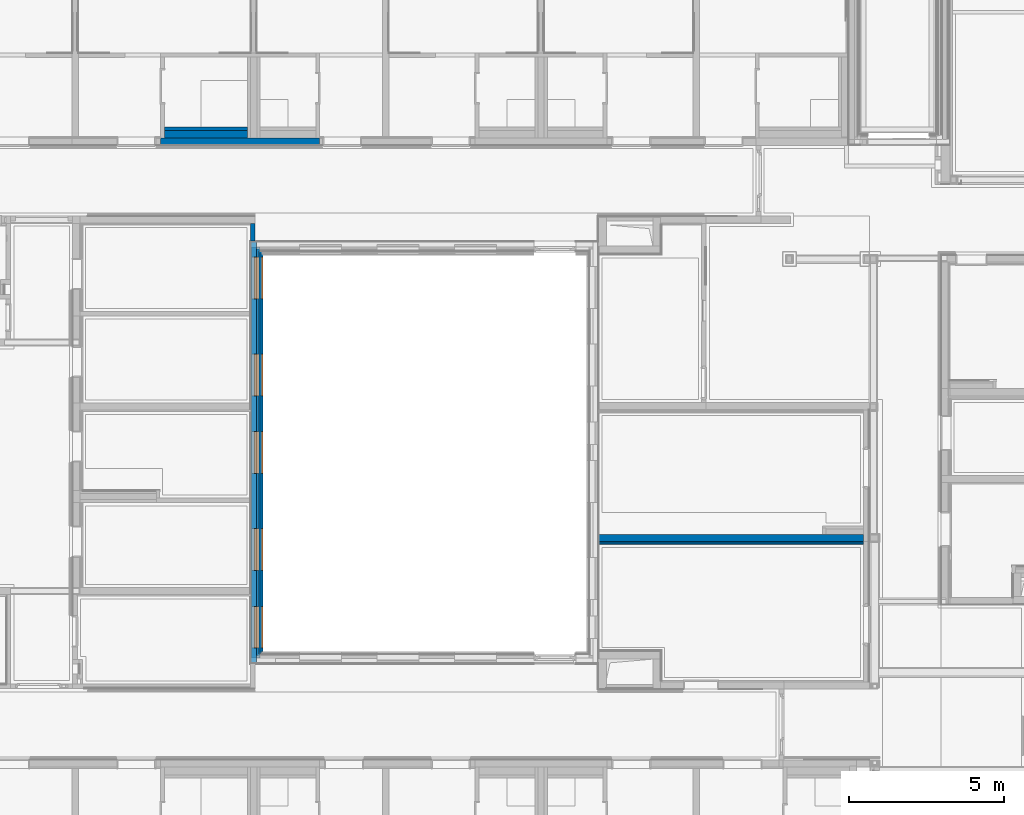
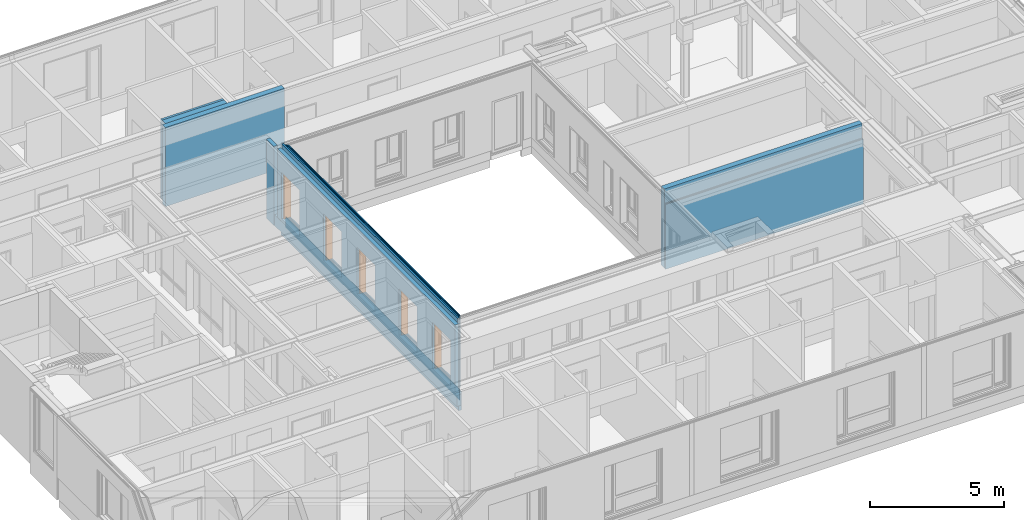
# One storey, part 17 of 207: 16 walls, 5 proxies, 30 openings.
"""IFC4 building model written with IfcOpenShell, lengths in metres."""

from ifc_helpers import new_model, entity, si_unit, converted_unit, derived_unit, frame, frame_2d, origin, origin_with_axes, place, context, subcontext, project, spatial, polyline, rectangle, outline, extrude, faceted_brep, material, element, fill, save


model = new_model("IFC4")

# Units and contexts
model_context = context("Model", 3, precision=1e-05, world=origin())
body_context = subcontext(model_context, "Body", "Model", "MODEL_VIEW")
ifc_project = project(units=[si_unit("LENGTHUNIT", "METRE"), si_unit("AREAUNIT", "SQUARE_METRE"), si_unit("VOLUMEUNIT", "CUBIC_METRE"), si_unit("MASSUNIT", "GRAM", prefix="KILO"), converted_unit("PLANEANGLEUNIT", "DEGREE", entity("IfcPlaneAngleMeasure", 0.0174532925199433), si_unit("PLANEANGLEUNIT", "RADIAN"), dimensions=[0, 0, 0, 0, 0, 0, 0]), derived_unit("THERMALTRANSMITTANCEUNIT", [(si_unit("POWERUNIT", "WATT"), 1), (si_unit("THERMODYNAMICTEMPERATUREUNIT", "KELVIN"), -1), (si_unit("LENGTHUNIT", "METRE"), -2)]), derived_unit("VOLUMETRICFLOWRATEUNIT", [(si_unit("LENGTHUNIT", "METRE"), 3), (converted_unit("TIMEUNIT", "hour", entity("IfcTimeMeasure", 3600.0), si_unit("TIMEUNIT", "SECOND"), dimensions=[0, 0, 1, 0, 0, 0, 0]), -1), (si_unit("LENGTHUNIT", "METRE"), -1)])], contexts=[model_context])

# Site, building, storey
site_placement = place(None, origin())
site = spatial("IfcSite", under=ifc_project, at=site_placement, Name="Psychiatrie Neubau Wunstorf", CompositionType="ELEMENT")
building_placement = place(site_placement, origin())
building = spatial("IfcBuilding", under=site, at=building_placement, Name="Neubau H2 Stationsgebäude", CompositionType="ELEMENT")
storey_placement = place(building_placement, frame((0.0, 0.0, -0.2)))
storey = spatial("IfcBuildingStorey", under=building, at=storey_placement, Name="H2 Ebene 0", CompositionType="ELEMENT", Elevation=-0.2)

# Wall, openings
ifc_material_1 = material(Name="WA-HD")
wall_1_placement = place(storey_placement, frame((15.675, 20.84, 0.5), z_axis=(0.0, 0.0, 1.0), x_axis=(-1.3748975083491e-16, -1.0, 0.0)))
wall_1 = element("IfcWall", 1, at=wall_1_placement, inside=storey, material=ifc_material_1, context=body_context, shape_type="SweptSolid", body=[
    extrude(rectangle(XDim=13.23, YDim=0.16, at=frame_2d((6.615, 0.08), x_axis=(1.0, 0.0))), origin_with_axes(), (0.0, 0.0, 1.0), 3.1),
])
opening_1_placement = place(wall_1_placement, frame((12.915, 0.16, 0.1), z_axis=(0.0, -1.0, 0.0), x_axis=(0.0, 0.0, 1.0)))
element("IfcOpeningElement", 2, at=opening_1_placement, cuts=wall_1, Name="Fensteröffnung", ObjectType="Opening", context=body_context, shape_type="SweptSolid", body=[
    extrude(outline(polyline([(2.12, 1.35), (2.12, 0.0), (0.0, 0.0), (0.0, 1.35), (2.12, 1.35)])), origin_with_axes(), (0.0, 0.0, 1.0), 0.16),
])
opening_2_placement = place(wall_1_placement, frame((10.415, 0.16, 0.1), z_axis=(0.0, -1.0, 0.0), x_axis=(0.0, 0.0, 1.0)))
element("IfcOpeningElement", 3, at=opening_2_placement, cuts=wall_1, Name="Fensteröffnung", ObjectType="Opening", context=body_context, shape_type="SweptSolid", body=[
    extrude(outline(polyline([(2.12, 1.35), (2.12, 0.0), (0.0, 0.0), (0.0, 1.35), (2.12, 1.35)])), origin_with_axes(), (0.0, 0.0, 1.0), 0.16),
])
opening_3_placement = place(wall_1_placement, frame((1.66500000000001, 0.16, 0.1), z_axis=(0.0, -1.0, 0.0), x_axis=(0.0, 0.0, 1.0)))
element("IfcOpeningElement", 4, at=opening_3_placement, cuts=wall_1, Name="Fensteröffnung", ObjectType="Opening", context=body_context, shape_type="SweptSolid", body=[
    extrude(outline(polyline([(2.12, 1.35), (2.12, 0.0), (0.0, 0.0), (0.0, 1.35), (2.12, 1.35)])), origin_with_axes(), (0.0, 0.0, 1.0), 0.16),
])
opening_4_placement = place(wall_1_placement, frame((4.79, 0.160000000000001, 0.1), z_axis=(0.0, -1.0, 0.0), x_axis=(0.0, 0.0, 1.0)))
element("IfcOpeningElement", 5, at=opening_4_placement, cuts=wall_1, Name="Fensteröffnung", ObjectType="Opening", context=body_context, shape_type="SweptSolid", body=[
    extrude(outline(polyline([(2.12, 1.35), (2.12, 0.0), (0.0, 0.0), (0.0, 1.35), (2.12, 1.35)])), origin_with_axes(), (0.0, 0.0, 1.0), 0.16),
])
opening_5_placement = place(wall_1_placement, frame((7.29, 0.159999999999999, 0.1), z_axis=(0.0, -1.0, 0.0), x_axis=(0.0, 0.0, 1.0)))
element("IfcOpeningElement", 6, at=opening_5_placement, cuts=wall_1, Name="Fensteröffnung", ObjectType="Opening", context=body_context, shape_type="SweptSolid", body=[
    extrude(outline(polyline([(2.12, 1.35), (2.12, 0.0), (0.0, 0.0), (0.0, 1.35), (2.12, 1.35)])), origin_with_axes(), (0.0, 0.0, 1.0), 0.16),
])

ifc_material_2 = material(Name="WA-DL")
wall_2_placement = place(storey_placement, frame((15.835, 20.78, 0.5), z_axis=(0.0, 0.0, 1.0), x_axis=(-1.38960229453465e-16, -1.0, 0.0)))
wall_2 = element("IfcWall", 7, at=wall_2_placement, inside=storey, material=ifc_material_2, context=body_context, shape_type="SweptSolid", body=[
    extrude(rectangle(XDim=13.09, YDim=0.08, at=frame_2d((6.545, 0.04), x_axis=(1.0, 0.0))), origin_with_axes(), (0.0, 0.0, 1.0), 3.3),
])
opening_6_placement = place(wall_2_placement, frame((12.855, 0.08, 0.1), z_axis=(0.0, -1.0, 0.0), x_axis=(0.0, 0.0, 1.0)))
element("IfcOpeningElement", 8, at=opening_6_placement, cuts=wall_2, Name="Fensteröffnung", ObjectType="Opening", context=body_context, shape_type="SweptSolid", body=[
    extrude(outline(polyline([(2.12, 1.35), (2.12, 0.0), (0.0, 0.0), (0.0, 1.35), (2.12, 1.35)])), origin_with_axes(), (0.0, 0.0, 1.0), 0.08),
])
opening_7_placement = place(wall_2_placement, frame((10.355, 0.0799999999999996, 0.1), z_axis=(0.0, -1.0, 0.0), x_axis=(0.0, 0.0, 1.0)))
element("IfcOpeningElement", 9, at=opening_7_placement, cuts=wall_2, Name="Fensteröffnung", ObjectType="Opening", context=body_context, shape_type="SweptSolid", body=[
    extrude(outline(polyline([(2.12, 1.35), (2.12, 0.0), (0.0, 0.0), (0.0, 1.35), (2.12, 1.35)])), origin_with_axes(), (0.0, 0.0, 1.0), 0.08),
])
opening_8_placement = place(wall_2_placement, frame((1.60500000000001, 0.0800000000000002, 0.1), z_axis=(0.0, -1.0, 0.0), x_axis=(0.0, 0.0, 1.0)))
element("IfcOpeningElement", 10, at=opening_8_placement, cuts=wall_2, Name="Fensteröffnung", ObjectType="Opening", context=body_context, shape_type="SweptSolid", body=[
    extrude(outline(polyline([(2.12, 1.35), (2.12, 0.0), (0.0, 0.0), (0.0, 1.35), (2.12, 1.35)])), origin_with_axes(), (0.0, 0.0, 1.0), 0.08),
])
opening_9_placement = place(wall_2_placement, frame((4.73, 0.0800000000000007, 0.1), z_axis=(0.0, -1.0, 0.0), x_axis=(0.0, 0.0, 1.0)))
element("IfcOpeningElement", 11, at=opening_9_placement, cuts=wall_2, Name="Fensteröffnung", ObjectType="Opening", context=body_context, shape_type="SweptSolid", body=[
    extrude(outline(polyline([(2.12, 1.35), (2.12, 0.0), (0.0, 0.0), (0.0, 1.35), (2.12, 1.35)])), origin_with_axes(), (0.0, 0.0, 1.0), 0.08),
])
opening_10_placement = place(wall_2_placement, frame((7.23, 0.0799999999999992, 0.1), z_axis=(0.0, -1.0, 0.0), x_axis=(0.0, 0.0, 1.0)))
element("IfcOpeningElement", 12, at=opening_10_placement, cuts=wall_2, Name="Fensteröffnung", ObjectType="Opening", context=body_context, shape_type="SweptSolid", body=[
    extrude(outline(polyline([(2.12, 1.35), (2.12, 0.0), (0.0, 0.0), (0.0, 1.35), (2.12, 1.35)])), origin_with_axes(), (0.0, 0.0, 1.0), 0.08),
])

ifc_material_3 = material(Name="WA-LB")
wall_3_placement = place(storey_placement, frame((15.915, 20.7, 0.5), z_axis=(0.0, 0.0, 1.0), x_axis=(-1.40202667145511e-16, -1.0, 0.0)))
wall_3 = element("IfcWall", 13, at=wall_3_placement, inside=storey, material=ifc_material_3, context=body_context, shape_type="SweptSolid", body=[
    extrude(rectangle(XDim=12.974, YDim=0.036, at=frame_2d((6.487, 0.018), x_axis=(1.0, 0.0))), origin_with_axes(), (0.0, 0.0, 1.0), 3.3),
])
opening_11_placement = place(wall_3_placement, frame((12.775, 0.036, 0.1), z_axis=(0.0, -1.0, 0.0), x_axis=(0.0, 0.0, 1.0)))
element("IfcOpeningElement", 14, at=opening_11_placement, cuts=wall_3, Name="Fensteröffnung", ObjectType="Opening", context=body_context, shape_type="SweptSolid", body=[
    extrude(outline(polyline([(2.12, 1.35), (2.12, 0.0), (0.0, 0.0), (0.0, 1.35), (2.12, 1.35)])), origin_with_axes(), (0.0, 0.0, 1.0), 0.036),
])
opening_12_placement = place(wall_3_placement, frame((10.275, 0.0359999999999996, 0.1), z_axis=(0.0, -1.0, 0.0), x_axis=(0.0, 0.0, 1.0)))
element("IfcOpeningElement", 15, at=opening_12_placement, cuts=wall_3, Name="Fensteröffnung", ObjectType="Opening", context=body_context, shape_type="SweptSolid", body=[
    extrude(outline(polyline([(2.12, 1.35), (2.12, 0.0), (0.0, 0.0), (0.0, 1.35), (2.12, 1.35)])), origin_with_axes(), (0.0, 0.0, 1.0), 0.036),
])
opening_13_placement = place(wall_3_placement, frame((1.52500000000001, 0.0360000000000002, 0.1), z_axis=(0.0, -1.0, 0.0), x_axis=(0.0, 0.0, 1.0)))
element("IfcOpeningElement", 16, at=opening_13_placement, cuts=wall_3, Name="Fensteröffnung", ObjectType="Opening", context=body_context, shape_type="SweptSolid", body=[
    extrude(outline(polyline([(2.12, 1.35), (2.12, 0.0), (0.0, 0.0), (0.0, 1.35), (2.12, 1.35)])), origin_with_axes(), (0.0, 0.0, 1.0), 0.036),
])
opening_14_placement = place(wall_3_placement, frame((4.65, 0.0360000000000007, 0.1), z_axis=(0.0, -1.0, 0.0), x_axis=(0.0, 0.0, 1.0)))
element("IfcOpeningElement", 17, at=opening_14_placement, cuts=wall_3, Name="Fensteröffnung", ObjectType="Opening", context=body_context, shape_type="SweptSolid", body=[
    extrude(outline(polyline([(2.12, 1.35), (2.12, 0.0), (0.0, 0.0), (0.0, 1.35), (2.12, 1.35)])), origin_with_axes(), (0.0, 0.0, 1.0), 0.036),
])
opening_15_placement = place(wall_3_placement, frame((7.15, 0.0359999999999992, 0.1), z_axis=(0.0, -1.0, 0.0), x_axis=(0.0, 0.0, 1.0)))
element("IfcOpeningElement", 18, at=opening_15_placement, cuts=wall_3, Name="Fensteröffnung", ObjectType="Opening", context=body_context, shape_type="SweptSolid", body=[
    extrude(outline(polyline([(2.12, 1.35), (2.12, 0.0), (0.0, 0.0), (0.0, 1.35), (2.12, 1.35)])), origin_with_axes(), (0.0, 0.0, 1.0), 0.036),
])

ifc_material_4 = material(Name="WA-KL")
wall_4_placement = place(storey_placement, frame((15.951, 20.664, 0.5), z_axis=(0.0, 0.0, 1.0), x_axis=(-1.40854065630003e-16, -1.0, 0.0)))
wall_4 = element("IfcWall", 19, at=wall_4_placement, inside=storey, material=ifc_material_4, context=body_context, shape_type="SweptSolid", body=[
    extrude(rectangle(XDim=12.914, YDim=0.024, at=frame_2d((6.457, 0.012), x_axis=(1.0, 0.0))), origin_with_axes(), (0.0, 0.0, 1.0), 3.3),
])
opening_16_placement = place(wall_4_placement, frame((10.239, 0.0239999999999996, 0.1), z_axis=(0.0, -1.0, 0.0), x_axis=(0.0, 0.0, 1.0)))
element("IfcOpeningElement", 20, at=opening_16_placement, cuts=wall_4, Name="Fensteröffnung", ObjectType="Opening", context=body_context, shape_type="SweptSolid", body=[
    extrude(outline(polyline([(2.12, 1.35), (2.12, 0.0), (0.0, 0.0), (0.0, 1.35), (2.12, 1.35)])), origin_with_axes(), (0.0, 0.0, 1.0), 0.024),
])
opening_17_placement = place(wall_4_placement, frame((12.739, 0.024, 0.1), z_axis=(0.0, -1.0, 0.0), x_axis=(0.0, 0.0, 1.0)))
element("IfcOpeningElement", 21, at=opening_17_placement, cuts=wall_4, Name="Fensteröffnung", ObjectType="Opening", context=body_context, shape_type="SweptSolid", body=[
    extrude(outline(polyline([(2.12, 1.35), (2.12, 0.0), (0.0, 0.0), (0.0, 1.35), (2.12, 1.35)])), origin_with_axes(), (0.0, 0.0, 1.0), 0.024),
])
opening_18_placement = place(wall_4_placement, frame((1.48900000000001, 0.0240000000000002, 0.1), z_axis=(0.0, -1.0, 0.0), x_axis=(0.0, 0.0, 1.0)))
element("IfcOpeningElement", 22, at=opening_18_placement, cuts=wall_4, Name="Fensteröffnung", ObjectType="Opening", context=body_context, shape_type="SweptSolid", body=[
    extrude(outline(polyline([(2.12, 1.35), (2.12, 0.0), (0.0, 0.0), (0.0, 1.35), (2.12, 1.35)])), origin_with_axes(), (0.0, 0.0, 1.0), 0.024),
])
opening_19_placement = place(wall_4_placement, frame((4.614, 0.0240000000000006, 0.1), z_axis=(0.0, -1.0, 0.0), x_axis=(0.0, 0.0, 1.0)))
element("IfcOpeningElement", 23, at=opening_19_placement, cuts=wall_4, Name="Fensteröffnung", ObjectType="Opening", context=body_context, shape_type="SweptSolid", body=[
    extrude(outline(polyline([(2.12, 1.35), (2.12, 0.0), (0.0, 0.0), (0.0, 1.35), (2.12, 1.35)])), origin_with_axes(), (0.0, 0.0, 1.0), 0.024),
])
opening_20_placement = place(wall_4_placement, frame((7.114, 0.0239999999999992, 0.1), z_axis=(0.0, -1.0, 0.0), x_axis=(0.0, 0.0, 1.0)))
element("IfcOpeningElement", 24, at=opening_20_placement, cuts=wall_4, Name="Fensteröffnung", ObjectType="Opening", context=body_context, shape_type="SweptSolid", body=[
    extrude(outline(polyline([(2.12, 1.35), (2.12, 0.0), (0.0, 0.0), (0.0, 1.35), (2.12, 1.35)])), origin_with_axes(), (0.0, 0.0, 1.0), 0.024),
])

ifc_material_5 = material(Name="WA-TL")
wall_5_placement = place(storey_placement, frame((15.975, 20.64, 0.5), z_axis=(0.0, 0.0, 1.0), x_axis=(-1.41379558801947e-16, -1.0, 0.0)))
wall_5 = element("IfcWall", 25, at=wall_5_placement, inside=storey, material=ifc_material_5, context=body_context, shape_type="SweptSolid", body=[
    extrude(rectangle(XDim=12.866, YDim=0.024, at=frame_2d((6.433, 0.012), x_axis=(1.0, 0.0))), origin_with_axes(), (0.0, 0.0, 1.0), 3.3),
])
opening_21_placement = place(wall_5_placement, frame((10.215, 0.0239999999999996, 0.1), z_axis=(0.0, -1.0, 0.0), x_axis=(0.0, 0.0, 1.0)))
element("IfcOpeningElement", 26, at=opening_21_placement, cuts=wall_5, Name="Fensteröffnung", ObjectType="Opening", context=body_context, shape_type="SweptSolid", body=[
    extrude(outline(polyline([(2.12, 1.35), (2.12, 0.0), (0.0, 0.0), (0.0, 1.35), (2.12, 1.35)])), origin_with_axes(), (0.0, 0.0, 1.0), 0.024),
])
opening_22_placement = place(wall_5_placement, frame((12.715, 0.024, 0.1), z_axis=(0.0, -1.0, 0.0), x_axis=(0.0, 0.0, 1.0)))
element("IfcOpeningElement", 27, at=opening_22_placement, cuts=wall_5, Name="Fensteröffnung", ObjectType="Opening", context=body_context, shape_type="SweptSolid", body=[
    extrude(outline(polyline([(2.12, 1.35), (2.12, 0.0), (0.0, 0.0), (0.0, 1.35), (2.12, 1.35)])), origin_with_axes(), (0.0, 0.0, 1.0), 0.024),
])
opening_23_placement = place(wall_5_placement, frame((1.46500000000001, 0.0240000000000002, 0.1), z_axis=(0.0, -1.0, 0.0), x_axis=(0.0, 0.0, 1.0)))
element("IfcOpeningElement", 28, at=opening_23_placement, cuts=wall_5, Name="Fensteröffnung", ObjectType="Opening", context=body_context, shape_type="SweptSolid", body=[
    extrude(outline(polyline([(2.12, 1.35), (2.12, 0.0), (0.0, 0.0), (0.0, 1.35), (2.12, 1.35)])), origin_with_axes(), (0.0, 0.0, 1.0), 0.024),
])
opening_24_placement = place(wall_5_placement, frame((4.59, 0.0240000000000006, 0.1), z_axis=(0.0, -1.0, 0.0), x_axis=(0.0, 0.0, 1.0)))
element("IfcOpeningElement", 29, at=opening_24_placement, cuts=wall_5, Name="Fensteröffnung", ObjectType="Opening", context=body_context, shape_type="SweptSolid", body=[
    extrude(outline(polyline([(2.12, 1.35), (2.12, 0.0), (0.0, 0.0), (0.0, 1.35), (2.12, 1.35)])), origin_with_axes(), (0.0, 0.0, 1.0), 0.024),
])
opening_25_placement = place(wall_5_placement, frame((7.09, 0.0239999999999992, 0.1), z_axis=(0.0, -1.0, 0.0), x_axis=(0.0, 0.0, 1.0)))
element("IfcOpeningElement", 30, at=opening_25_placement, cuts=wall_5, Name="Fensteröffnung", ObjectType="Opening", context=body_context, shape_type="SweptSolid", body=[
    extrude(outline(polyline([(2.12, 1.35), (2.12, 0.0), (0.0, 0.0), (0.0, 1.35), (2.12, 1.35)])), origin_with_axes(), (0.0, 0.0, 1.0), 0.024),
])

# Wall, openings, proxies
ifc_material_6 = material(Name="WA-HS")
wall_6_placement = place(storey_placement, frame((15.999, 20.616, 0.5), z_axis=(0.0, 0.0, 1.0), x_axis=(-1.4210854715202e-16, -1.0, 0.0)))
wall_6 = element("IfcWall", 31, at=wall_6_placement, inside=storey, material=ifc_material_6, context=body_context, shape_type="SweptSolid", body=[
    extrude(rectangle(XDim=12.8, YDim=0.042, at=frame_2d((6.4, 0.021), x_axis=(1.0, 0.0))), origin_with_axes(), (0.0, 0.0, 1.0), 3.3),
])
opening_26_placement = place(wall_6_placement, frame((10.191, 0.0419999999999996, 0.1), z_axis=(0.0, -1.0, 0.0), x_axis=(0.0, 0.0, 1.0)))
opening_26 = element("IfcOpeningElement", 32, at=opening_26_placement, cuts=wall_6, Name="Fensteröffnung", ObjectType="Opening", context=body_context, shape_type="SweptSolid", body=[
    extrude(outline(polyline([(2.12, 1.35), (2.12, 0.0), (0.0, 0.0), (0.0, 1.35), (2.12, 1.35)])), origin_with_axes(), (0.0, 0.0, 1.0), 0.042),
])
opening_27_placement = place(wall_6_placement, frame((12.691, 0.042, 0.1), z_axis=(0.0, -1.0, 0.0), x_axis=(0.0, 0.0, 1.0)))
opening_27 = element("IfcOpeningElement", 33, at=opening_27_placement, cuts=wall_6, Name="Fensteröffnung", ObjectType="Opening", context=body_context, shape_type="SweptSolid", body=[
    extrude(outline(polyline([(2.12, 1.35), (2.12, 0.0), (0.0, 0.0), (0.0, 1.35), (2.12, 1.35)])), origin_with_axes(), (0.0, 0.0, 1.0), 0.042),
])
opening_28_placement = place(wall_6_placement, frame((1.44100000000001, 0.0420000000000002, 0.1), z_axis=(0.0, -1.0, 0.0), x_axis=(0.0, 0.0, 1.0)))
opening_28 = element("IfcOpeningElement", 34, at=opening_28_placement, cuts=wall_6, Name="Fensteröffnung", ObjectType="Opening", context=body_context, shape_type="SweptSolid", body=[
    extrude(outline(polyline([(2.12, 1.35), (2.12, 0.0), (0.0, 0.0), (0.0, 1.35), (2.12, 1.35)])), origin_with_axes(), (0.0, 0.0, 1.0), 0.042),
])
opening_29_placement = place(wall_6_placement, frame((4.566, 0.0420000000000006, 0.1), z_axis=(0.0, -1.0, 0.0), x_axis=(0.0, 0.0, 1.0)))
opening_29 = element("IfcOpeningElement", 35, at=opening_29_placement, cuts=wall_6, Name="Fensteröffnung", ObjectType="Opening", context=body_context, shape_type="SweptSolid", body=[
    extrude(outline(polyline([(2.12, 1.35), (2.12, 0.0), (0.0, 0.0), (0.0, 1.35), (2.12, 1.35)])), origin_with_axes(), (0.0, 0.0, 1.0), 0.042),
])
opening_30_placement = place(wall_6_placement, frame((7.066, 0.0419999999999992, 0.1), z_axis=(0.0, -1.0, 0.0), x_axis=(0.0, 0.0, 1.0)))
opening_30 = element("IfcOpeningElement", 36, at=opening_30_placement, cuts=wall_6, Name="Fensteröffnung", ObjectType="Opening", context=body_context, shape_type="SweptSolid", body=[
    extrude(outline(polyline([(2.12, 1.35), (2.12, 0.0), (0.0, 0.0), (0.0, 1.35), (2.12, 1.35)])), origin_with_axes(), (0.0, 0.0, 1.0), 0.042),
])
ifc_material_7 = material(Name="WA-HS")
proxy_1_placement = place(opening_26_placement, frame((0.0, 0.0, 0.275)))
proxy_1 = element("IfcBuildingElementProxy", 37, at=proxy_1_placement, inside=storey, material=ifc_material_7, context=body_context, shape_type="Brep", body=[
    faceted_brep([(0.0, 0.0, -0.275), (0.0, 0.0, 0.0), (2.12, 0.0, 0.0), (2.12, 0.0, -0.275), (0.0, 0.05, 0.0), (0.0, 0.05, -0.275), (2.07, 0.05, -0.275), (2.07, 0.05, 0.0), (2.12, 1.35, 0.0), (2.12, 1.35, -0.275), (0.0, 1.35, -0.275), (0.0, 1.3, -0.275), (2.07, 1.3, -0.275), (2.07, 1.3, 0.0), (0.0, 1.3, 0.0), (0.0, 1.35, 0.0)], [[[0, 1, 2, 3]], [[4, 5, 6, 7]], [[0, 5, 4, 1]], [[3, 2, 8, 9]], [[6, 5, 0, 3, 9, 10, 11, 12]], [[13, 14, 15, 8, 2, 1, 4, 7]], [[7, 6, 12, 13]], [[11, 14, 13, 12]], [[15, 10, 9, 8]], [[11, 10, 15, 14]]], orient=[[False], [False], [False], [False], [False], [False], [False], [False], [False], [False]]),
])
fill(opening_26, proxy_1)
ifc_material_8 = material(Name="WA-HS")
proxy_2_placement = place(opening_27_placement, frame((0.0, 0.0, 0.275)))
proxy_2 = element("IfcBuildingElementProxy", 38, at=proxy_2_placement, inside=storey, material=ifc_material_8, context=body_context, shape_type="Brep", body=[
    faceted_brep([(0.0, 1.35, 0.0), (0.0, 1.35, -0.275), (2.12, 1.35, -0.275), (2.12, 1.35, 0.0), (2.12, 0.0, -0.275), (2.12, 0.0, 0.0), (0.0, 1.3, -0.275), (0.0, 1.3, 0.0), (0.0, 0.0, 0.0), (0.0, 0.0500000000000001, 0.0), (2.07, 0.0500000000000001, 0.0), (2.07, 1.3, 0.0), (2.07, 1.3, -0.275), (2.07, 0.0500000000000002, -0.275), (0.0, 0.0500000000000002, -0.275), (0.0, 0.0, -0.275)], [[[0, 1, 2, 3]], [[2, 4, 5, 3]], [[6, 1, 0, 7]], [[7, 0, 3, 5, 8, 9, 10, 11]], [[1, 6, 12, 13, 14, 15, 4, 2]], [[6, 7, 11, 12]], [[15, 8, 5, 4]], [[15, 14, 9, 8]], [[9, 14, 13, 10]], [[10, 13, 12, 11]]], orient=[[False], [False], [False], [False], [False], [False], [False], [False], [False], [False]]),
])
fill(opening_27, proxy_2)
ifc_material_9 = material(Name="WA-HS")
proxy_3_placement = place(opening_28_placement, frame((0.0, 0.0, 0.275)))
proxy_3 = element("IfcBuildingElementProxy", 39, at=proxy_3_placement, inside=storey, material=ifc_material_9, context=body_context, shape_type="Brep", body=[
    faceted_brep([(0.0, 1.35, 0.0), (0.0, 1.35, -0.275), (2.12, 1.35, -0.275), (2.12, 1.35, 0.0), (2.12, 0.0, -0.275), (2.12, 0.0, 0.0), (0.0, 1.3, -0.275), (0.0, 1.3, 0.0), (0.0, 0.0, 0.0), (0.0, 0.05, 0.0), (2.07, 0.05, 0.0), (2.07, 1.3, 0.0), (2.07, 1.3, -0.275), (2.07, 0.05, -0.275), (0.0, 0.05, -0.275), (0.0, 0.0, -0.275)], [[[0, 1, 2, 3]], [[2, 4, 5, 3]], [[6, 1, 0, 7]], [[7, 0, 3, 5, 8, 9, 10, 11]], [[1, 6, 12, 13, 14, 15, 4, 2]], [[6, 7, 11, 12]], [[15, 8, 5, 4]], [[15, 14, 9, 8]], [[9, 14, 13, 10]], [[10, 13, 12, 11]]], orient=[[False], [False], [False], [False], [False], [False], [False], [False], [False], [False]]),
])
fill(opening_28, proxy_3)
ifc_material_10 = material(Name="WA-HS")
proxy_4_placement = place(opening_29_placement, frame((0.0, 0.0, 0.275)))
proxy_4 = element("IfcBuildingElementProxy", 40, at=proxy_4_placement, inside=storey, material=ifc_material_10, context=body_context, shape_type="Brep", body=[
    faceted_brep([(0.0, 1.35, 0.0), (0.0, 1.35, -0.275), (2.12, 1.35, -0.275), (2.12, 1.35, 0.0), (2.12, 0.0, -0.275), (2.12, 0.0, 0.0), (0.0, 1.3, -0.275), (0.0, 1.3, 0.0), (0.0, 0.0, 0.0), (0.0, 0.05, 0.0), (2.07, 0.05, 0.0), (2.07, 1.3, 0.0), (2.07, 1.3, -0.275), (2.07, 0.05, -0.275), (0.0, 0.05, -0.275), (0.0, 0.0, -0.275)], [[[0, 1, 2, 3]], [[2, 4, 5, 3]], [[6, 1, 0, 7]], [[7, 0, 3, 5, 8, 9, 10, 11]], [[1, 6, 12, 13, 14, 15, 4, 2]], [[6, 7, 11, 12]], [[15, 8, 5, 4]], [[15, 14, 9, 8]], [[9, 14, 13, 10]], [[10, 13, 12, 11]]], orient=[[False], [False], [False], [False], [False], [False], [False], [False], [False], [False]]),
])
fill(opening_29, proxy_4)
ifc_material_11 = material(Name="WA-HS")
proxy_5_placement = place(opening_30_placement, frame((0.0, 0.0, 0.275)))
proxy_5 = element("IfcBuildingElementProxy", 41, at=proxy_5_placement, inside=storey, material=ifc_material_11, context=body_context, shape_type="Brep", body=[
    faceted_brep([(0.0, 0.0, -0.275), (0.0, 0.0, 0.0), (2.12, 0.0, 0.0), (2.12, 0.0, -0.275), (0.0, 0.05, 0.0), (0.0, 0.05, -0.275), (2.07, 0.05, -0.275), (2.07, 0.05, 0.0), (2.12, 1.35, 0.0), (2.12, 1.35, -0.275), (0.0, 1.35, -0.275), (0.0, 1.3, -0.275), (2.07, 1.3, -0.275), (2.07, 1.3, 0.0), (0.0, 1.3, 0.0), (0.0, 1.35, 0.0)], [[[0, 1, 2, 3]], [[4, 5, 6, 7]], [[0, 5, 4, 1]], [[3, 2, 8, 9]], [[6, 5, 0, 3, 9, 10, 11, 12]], [[13, 14, 15, 8, 2, 1, 4, 7]], [[7, 6, 12, 13]], [[11, 14, 13, 12]], [[15, 10, 9, 8]], [[11, 10, 15, 14]]], orient=[[False], [False], [False], [False], [False], [False], [False], [False], [False], [False]]),
])
fill(opening_30, proxy_5)

# Walls
ifc_material_12 = material(Name="WA-STB")
wall_7_placement = place(storey_placement, frame((15.66, 21.015, 0.0), z_axis=(0.0, 0.0, 1.0), x_axis=(-2.67892401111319e-16, -1.0, 0.0)))
element("IfcWall", 42, at=wall_7_placement, inside=storey, material=ifc_material_12, context=body_context, shape_type="SweptSolid", body=[
    extrude(rectangle(XDim=13.58, YDim=0.174999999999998, at=frame_2d((6.79, 0.0874999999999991), x_axis=(1.0, 0.0))), origin_with_axes(), (0.0, 0.0, 1.0), 0.5),
])
ifc_material_13 = material(Name="WA-DE")
wall_8_placement = place(storey_placement, frame((15.835, 20.84, -0.36), z_axis=(0.0, 0.0, 1.0), x_axis=(-2.7497950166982e-16, -1.0, 0.0)))
element("IfcWall", 43, at=wall_8_placement, inside=storey, material=ifc_material_13, context=body_context, shape_type="SweptSolid", body=[
    extrude(rectangle(XDim=13.23, YDim=0.12, at=frame_2d((6.615, 0.06), x_axis=(1.0, 0.0))), origin_with_axes(), (0.0, 0.0, 1.0), 0.86),
])
ifc_material_14 = material(Name="WA-LB")
wall_9_placement = place(storey_placement, frame((15.955, 20.72, 0.0), z_axis=(0.0, 0.0, 1.0), x_axis=(-2.8005995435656e-16, -1.0, 0.0)))
element("IfcWall", 44, at=wall_9_placement, inside=storey, material=ifc_material_14, context=body_context, shape_type="SweptSolid", body=[
    extrude(rectangle(XDim=12.99, YDim=0.015, at=frame_2d((6.495, 0.0075), x_axis=(1.0, 0.0))), origin_with_axes(), (0.0, 0.0, 1.0), 0.5),
])
ifc_material_15 = material(Name="WI-LB")
wall_10_placement = place(storey_placement, frame((26.861, 11.2675575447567, 0.0)))
element("IfcWall", 45, at=wall_10_placement, inside=storey, material=ifc_material_15, context=body_context, shape_type="SweptSolid", body=[
    extrude(rectangle(XDim=8.51900000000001, YDim=0.04, at=frame_2d((4.25950000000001, 0.02), x_axis=(1.0, 0.0))), origin_with_axes(), (0.0, 0.0, 1.0), 2.95),
])
ifc_material_16 = material(Name="Installationsraum")
wall_11_placement = place(storey_placement, frame((26.861, 11.3075575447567, 0.0)))
element("IfcWall", 46, at=wall_11_placement, inside=storey, material=ifc_material_16, context=body_context, shape_type="SweptSolid", body=[
    extrude(rectangle(XDim=8.51900000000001, YDim=0.05, at=frame_2d((4.25950000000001, 0.025), x_axis=(1.0, 0.0))), origin_with_axes(), (0.0, 0.0, 1.0), 2.95),
])
ifc_material_17 = material(Name="WI-HW 60")
wall_12_placement = place(storey_placement, frame((26.861, 11.3575575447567, 0.0)))
element("IfcWall", 47, at=wall_12_placement, inside=storey, material=ifc_material_17, context=body_context, shape_type="SweptSolid", body=[
    extrude(rectangle(XDim=8.51900000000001, YDim=0.232, at=frame_2d((4.25950000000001, 0.116), x_axis=(1.0, 0.0))), origin_with_axes(), (0.0, 0.0, 1.0), 3.6),
])
ifc_material_18 = material(Name="WI-HW 60")
wall_13_placement = place(storey_placement, frame((12.75, 24.1175, 0.0), z_axis=(0.0, 0.0, 1.0), x_axis=(1.0, 2.83939809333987e-15, 0.0)))
element("IfcWall", 48, at=wall_13_placement, inside=storey, material=ifc_material_18, context=body_context, shape_type="SweptSolid", body=[
    extrude(rectangle(XDim=5.125, YDim=0.232, at=frame_2d((2.5625, 0.116), x_axis=(1.0, 0.0))), origin_with_axes(), (0.0, 0.0, 1.0), 3.6),
])
ifc_material_19 = material(Name="WI-LB")
wall_14_placement = place(storey_placement, frame((15.639, 21.604, 0.0), z_axis=(0.0, 0.0, 1.0), x_axis=(0.0, -1.0, 0.0)))
element("IfcWall", 49, at=wall_14_placement, inside=storey, material=ifc_material_19, context=body_context, shape_type="SweptSolid", body=[
    extrude(rectangle(XDim=0.568, YDim=0.15, at=frame_2d((0.284, 0.075), x_axis=(1.0, 0.0))), origin_with_axes(), (0.0, 0.0, 1.0), 3.6),
])
ifc_material_20 = material(Name="WI-IW")
wall_15_placement = place(storey_placement, frame((15.55, 24.6995, 0.0), z_axis=(0.0, 0.0, 1.0), x_axis=(-1.0, 0.0, 0.0)))
element("IfcWall", 50, at=wall_15_placement, inside=storey, material=ifc_material_20, context=body_context, shape_type="SweptSolid", body=[
    extrude(rectangle(XDim=2.675, YDim=0.1, at=frame_2d((1.3375, 0.05), x_axis=(1.0, 0.0))), origin_with_axes(), (0.0, 0.0, 1.0), 3.6),
])
ifc_material_21 = material(Name="Installationsraum")
wall_16_placement = place(storey_placement, frame((15.55, 24.5995, 0.0), z_axis=(0.0, 0.0, 1.0), x_axis=(-1.0, 0.0, 0.0)))
element("IfcWall", 51, at=wall_16_placement, inside=storey, material=ifc_material_21, context=body_context, shape_type="SweptSolid", body=[
    extrude(rectangle(XDim=2.675, YDim=0.25, at=frame_2d((1.3375, 0.125), x_axis=(1.0, 0.0))), origin_with_axes(), (0.0, 0.0, 1.0), 3.6),
])

save(model, "model.ifc")
